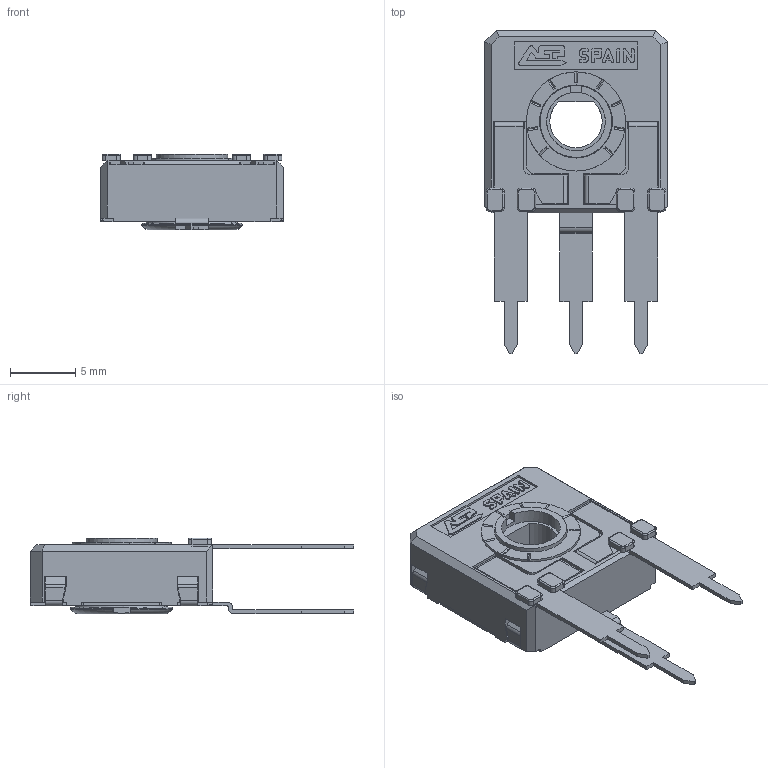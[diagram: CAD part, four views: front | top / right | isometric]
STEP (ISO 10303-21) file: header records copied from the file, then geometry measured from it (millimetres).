
FILE_DESCRIPTION(/* description */ (''),/* implementation_level */ '2;1');
FILE_NAME(/* name */ '\\SERVERACP\intercambio\Ignacio Santa Cecilia\Nueva WEB 2025\CA14 - CE14\CA14FHL5 RT-RO.stp',/* time_stamp */ '2025-06-12T09:48:07+02:00',/* author */ ('CEM'),/* organization */ (''),/* preprocessor_version */ 'ST-DEVELOPER v17',/* originating_system */ 'Autodesk Inventor 2018',/* authorisation */ '');
FILE_SCHEMA (('AUTOMOTIVE_DESIGN { 1 0 10303 214 3 1 1 }'));
Length unit declared in the file: millimetre
Products named in the file (1): CARCASA CA14 PGA
Bounding box: 14 x 24.8 x 5.8 mm (x, y, z)
Volume: 537.7 mm3; surface area: 1516.8 mm2
Topology: 1 solids, 1 shells, 664 faces, 1875 edges, 1207 vertices
Faces by surface type: plane 493, cylinder 134, torus 23, bspline 8, cone 6
Full cylindrical faces by diameter (mm): 4.5 x1, 5.5 x1, 5.6 x1, 5.752 x1, 6.8 x1, 7.6 x1
Entity records: 21677 total; most frequent: CARTESIAN_POINT 4044, ORIENTED_EDGE 3750, DIRECTION 3497, EDGE_CURVE 1875, LINE 1477, VECTOR 1477, VERTEX_POINT 1207, AXIS2_PLACEMENT_3D 1010
